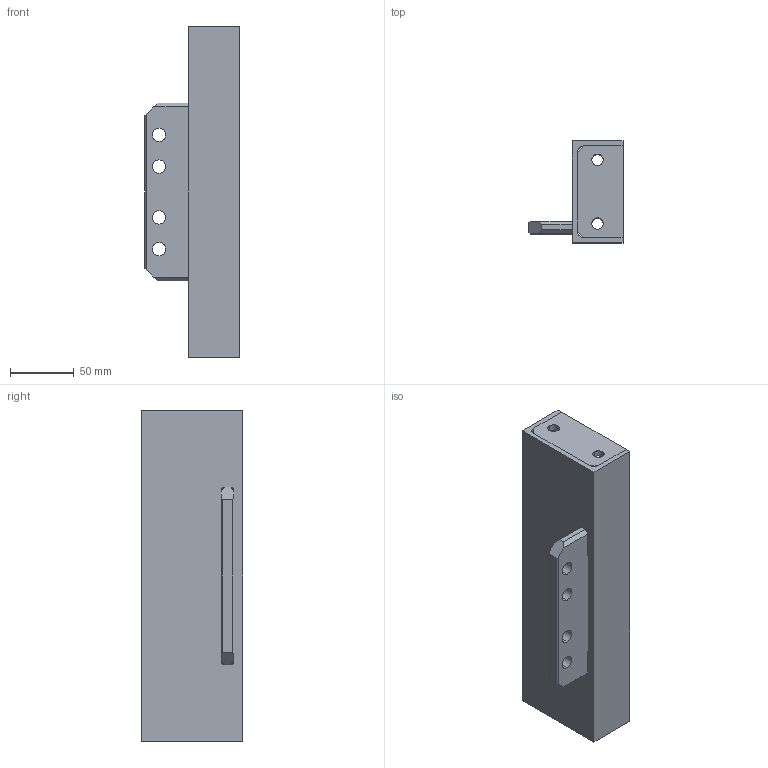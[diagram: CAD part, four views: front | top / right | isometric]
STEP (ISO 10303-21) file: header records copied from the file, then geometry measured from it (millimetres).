
FILE_DESCRIPTION (( 'STEP AP214' ), '1' );
FILE_NAME ('ÂØÀÅ.301343.018 Ïåðåìû÷êà.STEP', '2024-04-17T12:42:54', ( '' ), ( '' ), 'SwSTEP 2.0', 'SolidWorks 2019', '' );
FILE_SCHEMA (( 'AUTOMOTIVE_DESIGN' ));
Length unit declared in the file: millimetre
Products named in the file (4): ÂØÀÅ.741532.001 Îñíîâàíèå òî÷êè òàêåëàæíîé; 贅斃.746212.003 盷謥檞癰趌260; ÂØÀÅ.301343.018 Ïåðåìû÷êà; ÂØÀÅ.741124.122 Ïëàñòèíà_80å40
Assembly tree (4 placements, depth 2):
  ÂØÀÅ.301343.018 Ïåðåìû÷êà
    贅斃.746212.003 盷謥檞癰趌260
    ÂØÀÅ.741124.122 Ïëàñòèíà_80å40  x2
    ÂØÀÅ.741532.001 Îñíîâàíèå òî÷êè òàêåëàæíîé
Bounding box: 74 x 80 x 260 mm (x, y, z)
Volume: 227739 mm3; surface area: 106699.7 mm2
Topology: 4 solids, 4 shells, 82 faces, 228 edges, 152 vertices
Faces by surface type: plane 56, cylinder 26
Entity records: 2496 total; most frequent: CARTESIAN_POINT 451, ORIENTED_EDGE 396, DIRECTION 392, EDGE_CURVE 198, LINE 150, VECTOR 150, VERTEX_POINT 132, AXIS2_PLACEMENT_3D 121
